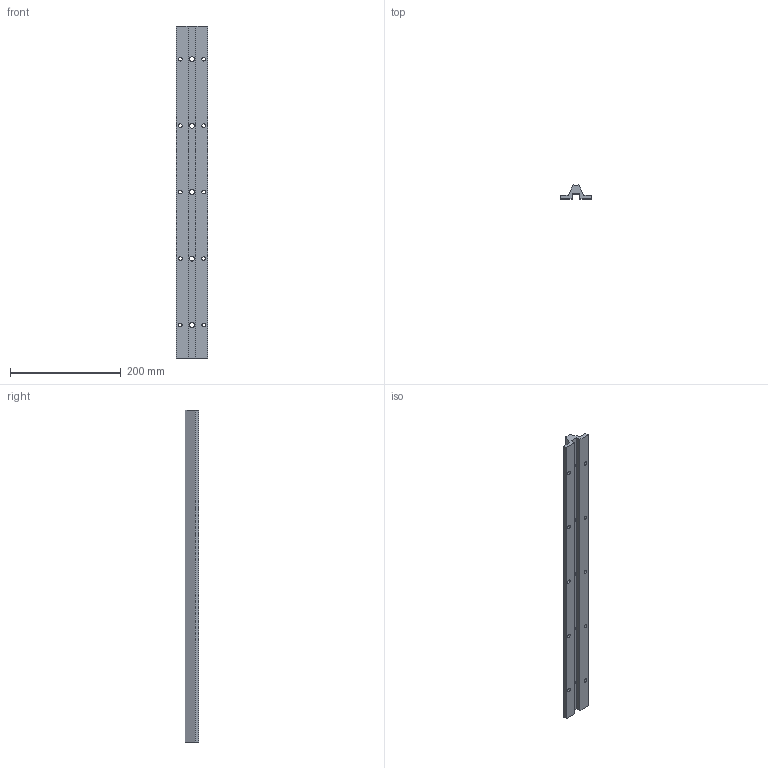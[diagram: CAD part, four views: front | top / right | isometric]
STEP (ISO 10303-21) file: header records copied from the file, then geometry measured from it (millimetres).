
FILE_DESCRIPTION (( 'STEP AP203' ), '1' );
FILE_NAME ('KWU50-25 T1-T2.step', '2020-03-23T07:54:30', ( '' ), ( '' ), 'SwSTEP 2.0', 'SolidWorks 2019', '' );
FILE_SCHEMA (( 'CONFIG_CONTROL_DESIGN' ));
Length unit declared in the file: millimetre
Products named in the file (2): KWU50-25 T1-T2
Bounding box: 57 x 24.6 x 599.5 mm (x, y, z)
Volume: 338423.2 mm3; surface area: 103469.7 mm2
Topology: 1 solids, 1 shells, 45 faces, 134 edges, 86 vertices
Faces by surface type: cylinder 30, plane 15
Entity records: 1733 total; most frequent: CARTESIAN_POINT 297, ORIENTED_EDGE 268, DIRECTION 268, EDGE_CURVE 134, AXIS2_PLACEMENT_3D 97, VERTEX_POINT 86, VECTOR 74, LINE 74
